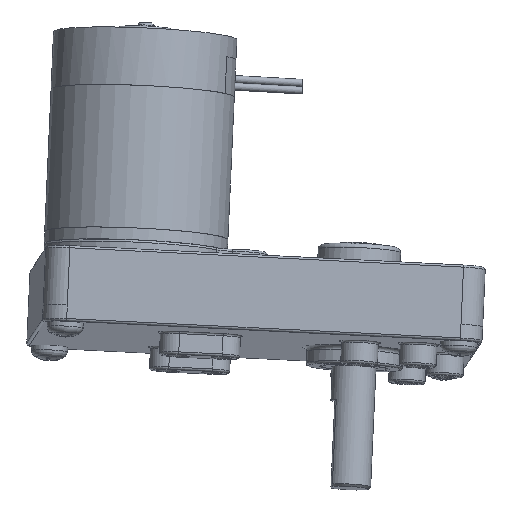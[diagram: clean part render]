
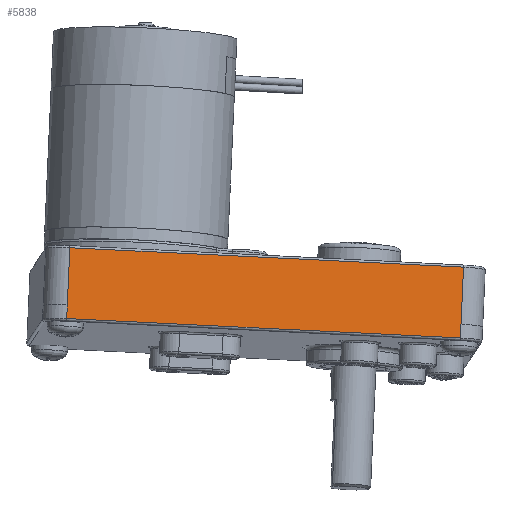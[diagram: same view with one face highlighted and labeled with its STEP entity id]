
A CAD part, left-side view. The second image highlights one B-rep face of the part: STEP entity #5838.
In plain terms, the highlighted planar face has unit normal (-0.995, -0.054, 0.082) as drawn and (-0.999, -0.053, 0) by its records, which use the part's own axes.
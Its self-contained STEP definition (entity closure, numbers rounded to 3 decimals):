
#423=LINE('',#10530,#598);
#425=LINE('',#10536,#600);
#426=LINE('',#10538,#601);
#427=LINE('',#10540,#602);
#428=LINE('',#10542,#603);
#429=LINE('',#10543,#604);
#598=VECTOR('',#7723,3.);
#600=VECTOR('',#7729,86.);
#601=VECTOR('',#7730,3.);
#602=VECTOR('',#7731,12.5);
#603=VECTOR('',#7732,86.);
#604=VECTOR('',#7733,12.5);
#840=PLANE('',#6455);
#1292=FACE_OUTER_BOUND('',#1747,.T.);
#1747=EDGE_LOOP('',(#4701,#4702,#4703,#4704,#4705,#4706));
#2895=VERTEX_POINT('',#10526);
#2897=VERTEX_POINT('',#10529);
#2899=VERTEX_POINT('',#10535);
#2900=VERTEX_POINT('',#10537);
#2901=VERTEX_POINT('',#10539);
#2902=VERTEX_POINT('',#10541);
#3577=EDGE_CURVE('',#2895,#2897,#423,.T.);
#3580=EDGE_CURVE('',#2899,#2895,#425,.T.);
#3581=EDGE_CURVE('',#2899,#2900,#426,.T.);
#3582=EDGE_CURVE('',#2901,#2900,#427,.T.);
#3583=EDGE_CURVE('',#2902,#2901,#428,.T.);
#3584=EDGE_CURVE('',#2902,#2897,#429,.T.);
#4701=ORIENTED_EDGE('',*,*,#3580,.F.);
#4702=ORIENTED_EDGE('',*,*,#3581,.T.);
#4703=ORIENTED_EDGE('',*,*,#3582,.F.);
#4704=ORIENTED_EDGE('',*,*,#3583,.F.);
#4705=ORIENTED_EDGE('',*,*,#3584,.T.);
#4706=ORIENTED_EDGE('',*,*,#3577,.F.);
#5838=ADVANCED_FACE('',(#1292),#840,.T.);
#6455=AXIS2_PLACEMENT_3D('',#10534,#7727,#7728);
#7723=DIRECTION('',(0.,0.,1.));
#7727=DIRECTION('center_axis',(-0.999,-0.053,0.));
#7728=DIRECTION('ref_axis',(0.,0.,1.));
#7729=DIRECTION('',(-0.053,0.999,0.));
#7730=DIRECTION('',(0.,0.,1.));
#7731=DIRECTION('',(0.,0.,-1.));
#7732=DIRECTION('',(0.053,-0.999,0.));
#7733=DIRECTION('',(0.,0.,-1.));
#10526=CARTESIAN_POINT('',(-198.197,167.806,-87.187));
#10529=CARTESIAN_POINT('',(-198.197,167.806,-84.187));
#10530=CARTESIAN_POINT('',(-198.197,167.806,-87.187));
#10534=CARTESIAN_POINT('Origin',(-193.674,81.925,-87.687));
#10535=CARTESIAN_POINT('',(-193.674,81.925,-87.187));
#10536=CARTESIAN_POINT('',(-193.674,81.925,-87.187));
#10537=CARTESIAN_POINT('',(-193.674,81.925,-84.187));
#10538=CARTESIAN_POINT('',(-193.674,81.925,-87.187));
#10539=CARTESIAN_POINT('',(-193.674,81.925,-71.687));
#10540=CARTESIAN_POINT('',(-193.674,81.925,-71.687));
#10541=CARTESIAN_POINT('',(-198.197,167.806,-71.687));
#10542=CARTESIAN_POINT('',(-198.197,167.806,-71.687));
#10543=CARTESIAN_POINT('',(-198.197,167.806,-71.687));
